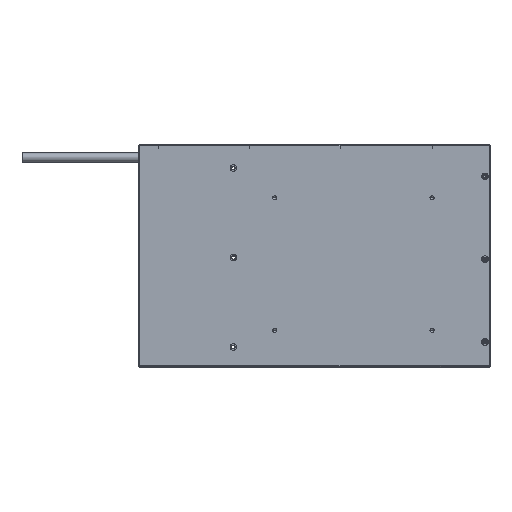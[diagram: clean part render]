
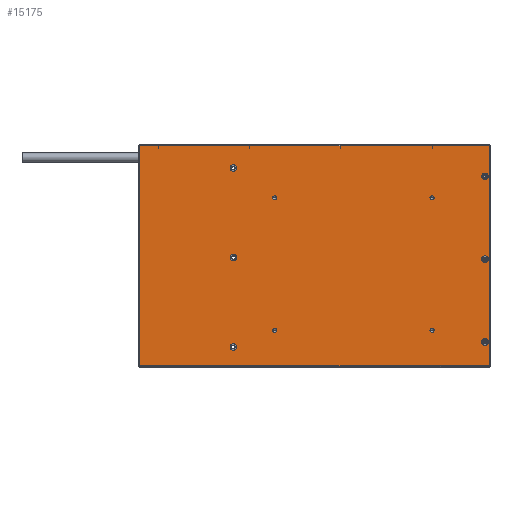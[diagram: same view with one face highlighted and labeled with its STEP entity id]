
A CAD part, top view. The second image highlights one B-rep face of the part: STEP entity #15175.
In plain terms, the highlighted planar face has unit normal (0, 0, 1).
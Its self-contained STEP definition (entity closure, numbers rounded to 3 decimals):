
#3896=CARTESIAN_POINT('',(102.,-50.,5.));
#3897=DIRECTION('',(0.,0.,1.));
#3898=DIRECTION('',(1.,0.,0.));
#3899=AXIS2_PLACEMENT_3D('',#3896,#3897,#3898);
#3901=CARTESIAN_POINT('',(102.,-50.,5.));
#3902=DIRECTION('',(0.,0.,1.));
#3903=DIRECTION('',(-1.,0.,0.));
#3904=AXIS2_PLACEMENT_3D('',#3901,#3902,#3903);
#3906=CARTESIAN_POINT('',(102.,0.,5.));
#3907=DIRECTION('',(0.,0.,1.));
#3908=DIRECTION('',(1.,0.,0.));
#3909=AXIS2_PLACEMENT_3D('',#3906,#3907,#3908);
#3911=CARTESIAN_POINT('',(102.,0.,5.));
#3912=DIRECTION('',(0.,0.,1.));
#3913=DIRECTION('',(-1.,0.,0.));
#3914=AXIS2_PLACEMENT_3D('',#3911,#3912,#3913);
#3916=CARTESIAN_POINT('',(102.,50.,5.));
#3917=DIRECTION('',(0.,0.,1.));
#3918=DIRECTION('',(1.,0.,0.));
#3919=AXIS2_PLACEMENT_3D('',#3916,#3917,#3918);
#3921=CARTESIAN_POINT('',(102.,50.,5.));
#3922=DIRECTION('',(0.,0.,1.));
#3923=DIRECTION('',(-1.,0.,0.));
#3924=AXIS2_PLACEMENT_3D('',#3921,#3922,#3923);
#3926=CARTESIAN_POINT('',(-50.,55.,5.));
#3927=DIRECTION('',(0.,0.,1.));
#3928=DIRECTION('',(1.,0.,0.));
#3929=AXIS2_PLACEMENT_3D('',#3926,#3927,#3928);
#3931=CARTESIAN_POINT('',(-50.,55.,5.));
#3932=DIRECTION('',(0.,0.,1.));
#3933=DIRECTION('',(-1.,0.,0.));
#3934=AXIS2_PLACEMENT_3D('',#3931,#3932,#3933);
#3936=CARTESIAN_POINT('',(-50.,1.,5.));
#3937=DIRECTION('',(0.,0.,1.));
#3938=DIRECTION('',(1.,0.,0.));
#3939=AXIS2_PLACEMENT_3D('',#3936,#3937,#3938);
#3941=CARTESIAN_POINT('',(-50.,1.,5.));
#3942=DIRECTION('',(0.,0.,1.));
#3943=DIRECTION('',(-1.,0.,0.));
#3944=AXIS2_PLACEMENT_3D('',#3941,#3942,#3943);
#3946=CARTESIAN_POINT('',(-50.,-53.,5.));
#3947=DIRECTION('',(0.,0.,1.));
#3948=DIRECTION('',(1.,0.,0.));
#3949=AXIS2_PLACEMENT_3D('',#3946,#3947,#3948);
#3951=CARTESIAN_POINT('',(-50.,-53.,5.));
#3952=DIRECTION('',(0.,0.,1.));
#3953=DIRECTION('',(-1.,0.,0.));
#3954=AXIS2_PLACEMENT_3D('',#3951,#3952,#3953);
#3956=CARTESIAN_POINT('',(70.,37.,5.));
#3957=DIRECTION('',(0.,0.,1.));
#3958=DIRECTION('',(-1.,0.,0.));
#3959=AXIS2_PLACEMENT_3D('',#3956,#3957,#3958);
#3961=CARTESIAN_POINT('',(70.,37.,5.));
#3962=DIRECTION('',(0.,0.,1.));
#3963=DIRECTION('',(1.,0.,0.));
#3964=AXIS2_PLACEMENT_3D('',#3961,#3962,#3963);
#3966=CARTESIAN_POINT('',(-25.,37.,5.));
#3967=DIRECTION('',(0.,0.,1.));
#3968=DIRECTION('',(-1.,0.,0.));
#3969=AXIS2_PLACEMENT_3D('',#3966,#3967,#3968);
#3971=CARTESIAN_POINT('',(-25.,37.,5.));
#3972=DIRECTION('',(0.,0.,1.));
#3973=DIRECTION('',(1.,0.,0.));
#3974=AXIS2_PLACEMENT_3D('',#3971,#3972,#3973);
#3976=CARTESIAN_POINT('',(70.,-43.,5.));
#3977=DIRECTION('',(0.,0.,1.));
#3978=DIRECTION('',(-1.,0.,0.));
#3979=AXIS2_PLACEMENT_3D('',#3976,#3977,#3978);
#3981=CARTESIAN_POINT('',(70.,-43.,5.));
#3982=DIRECTION('',(0.,0.,1.));
#3983=DIRECTION('',(1.,0.,0.));
#3984=AXIS2_PLACEMENT_3D('',#3981,#3982,#3983);
#3986=CARTESIAN_POINT('',(-25.,-43.,5.));
#3987=DIRECTION('',(0.,0.,1.));
#3988=DIRECTION('',(-1.,0.,0.));
#3989=AXIS2_PLACEMENT_3D('',#3986,#3987,#3988);
#3991=CARTESIAN_POINT('',(-25.,-43.,5.));
#3992=DIRECTION('',(0.,0.,1.));
#3993=DIRECTION('',(1.,0.,0.));
#3994=AXIS2_PLACEMENT_3D('',#3991,#3992,#3993);
#3996=DIRECTION('',(-1.,0.,0.));
#3997=VECTOR('',#3996,211.);
#3998=CARTESIAN_POINT('',(104.5,-64.5,5.));
#3999=LINE('',#3998,#3997);
#4000=DIRECTION('',(1.,0.,0.));
#4001=VECTOR('',#4000,211.);
#4002=CARTESIAN_POINT('',(-106.5,68.5,5.));
#4003=LINE('',#4002,#4001);
#6426=DIRECTION('',(0.,-1.,0.));
#6427=VECTOR('',#6426,133.);
#6428=CARTESIAN_POINT('',(-106.5,68.5,5.));
#6429=LINE('',#6428,#6427);
#7029=DIRECTION('',(0.,1.,0.));
#7030=VECTOR('',#7029,133.);
#7031=CARTESIAN_POINT('',(104.5,-64.5,5.));
#7032=LINE('',#7031,#7030);
#7633=CARTESIAN_POINT('',(104.,-50.,5.));
#7634=CARTESIAN_POINT('',(100.,-50.,5.));
#7635=VERTEX_POINT('',#7633);
#7636=VERTEX_POINT('',#7634);
#7637=CARTESIAN_POINT('',(104.,0.,5.));
#7638=CARTESIAN_POINT('',(100.,0.,5.));
#7639=VERTEX_POINT('',#7637);
#7640=VERTEX_POINT('',#7638);
#7641=CARTESIAN_POINT('',(104.,50.,5.));
#7642=CARTESIAN_POINT('',(100.,50.,5.));
#7643=VERTEX_POINT('',#7641);
#7644=VERTEX_POINT('',#7642);
#7645=CARTESIAN_POINT('',(-48.,55.,5.));
#7646=CARTESIAN_POINT('',(-52.,55.,5.));
#7647=VERTEX_POINT('',#7645);
#7648=VERTEX_POINT('',#7646);
#7649=CARTESIAN_POINT('',(-48.,1.,5.));
#7650=CARTESIAN_POINT('',(-52.,1.,5.));
#7651=VERTEX_POINT('',#7649);
#7652=VERTEX_POINT('',#7650);
#7653=CARTESIAN_POINT('',(-48.,-53.,5.));
#7654=CARTESIAN_POINT('',(-52.,-53.,5.));
#7655=VERTEX_POINT('',#7653);
#7656=VERTEX_POINT('',#7654);
#7657=CARTESIAN_POINT('',(68.75,37.,5.));
#7658=CARTESIAN_POINT('',(71.25,37.,5.));
#7659=VERTEX_POINT('',#7657);
#7660=VERTEX_POINT('',#7658);
#7661=CARTESIAN_POINT('',(-26.25,37.,5.));
#7662=CARTESIAN_POINT('',(-23.75,37.,5.));
#7663=VERTEX_POINT('',#7661);
#7664=VERTEX_POINT('',#7662);
#7665=CARTESIAN_POINT('',(68.75,-43.,5.));
#7666=CARTESIAN_POINT('',(71.25,-43.,5.));
#7667=VERTEX_POINT('',#7665);
#7668=VERTEX_POINT('',#7666);
#7669=CARTESIAN_POINT('',(-26.25,-43.,5.));
#7670=CARTESIAN_POINT('',(-23.75,-43.,5.));
#7671=VERTEX_POINT('',#7669);
#7672=VERTEX_POINT('',#7670);
#7788=CARTESIAN_POINT('',(104.5,-64.5,5.));
#7790=VERTEX_POINT('',#7788);
#8050=CARTESIAN_POINT('',(-106.5,68.5,5.));
#8051=VERTEX_POINT('',#8050);
#8450=CARTESIAN_POINT('',(104.5,68.5,5.));
#8451=VERTEX_POINT('',#8450);
#8818=CARTESIAN_POINT('',(-106.5,-64.5,5.));
#8819=VERTEX_POINT('',#8818);
#15103=CARTESIAN_POINT('',(0.,0.,5.));
#15104=DIRECTION('',(0.,0.,1.));
#15105=DIRECTION('',(1.,0.,0.));
#15106=AXIS2_PLACEMENT_3D('',#15103,#15104,#15105);
#15107=PLANE('',#15106);
#15109=ORIENTED_EDGE('',*,*,#15108,.T.);
#15111=ORIENTED_EDGE('',*,*,#15110,.F.);
#15112=ORIENTED_EDGE('',*,*,#12574,.T.);
#15114=ORIENTED_EDGE('',*,*,#15113,.F.);
#15115=EDGE_LOOP('',(#15109,#15111,#15112,#15114));
#15116=FACE_OUTER_BOUND('',#15115,.F.);
#15118=ORIENTED_EDGE('',*,*,#15117,.T.);
#15120=ORIENTED_EDGE('',*,*,#15119,.T.);
#15121=EDGE_LOOP('',(#15118,#15120));
#15122=FACE_BOUND('',#15121,.F.);
#15124=ORIENTED_EDGE('',*,*,#15123,.T.);
#15126=ORIENTED_EDGE('',*,*,#15125,.T.);
#15127=EDGE_LOOP('',(#15124,#15126));
#15128=FACE_BOUND('',#15127,.F.);
#15130=ORIENTED_EDGE('',*,*,#15129,.T.);
#15132=ORIENTED_EDGE('',*,*,#15131,.T.);
#15133=EDGE_LOOP('',(#15130,#15132));
#15134=FACE_BOUND('',#15133,.F.);
#15135=ORIENTED_EDGE('',*,*,#15082,.T.);
#15136=ORIENTED_EDGE('',*,*,#15098,.T.);
#15137=EDGE_LOOP('',(#15135,#15136));
#15138=FACE_BOUND('',#15137,.F.);
#15140=ORIENTED_EDGE('',*,*,#15139,.T.);
#15142=ORIENTED_EDGE('',*,*,#15141,.T.);
#15143=EDGE_LOOP('',(#15140,#15142));
#15144=FACE_BOUND('',#15143,.F.);
#15146=ORIENTED_EDGE('',*,*,#15145,.T.);
#15148=ORIENTED_EDGE('',*,*,#15147,.T.);
#15149=EDGE_LOOP('',(#15146,#15148));
#15150=FACE_BOUND('',#15149,.F.);
#15152=ORIENTED_EDGE('',*,*,#15151,.T.);
#15154=ORIENTED_EDGE('',*,*,#15153,.T.);
#15155=EDGE_LOOP('',(#15152,#15154));
#15156=FACE_BOUND('',#15155,.F.);
#15158=ORIENTED_EDGE('',*,*,#15157,.T.);
#15160=ORIENTED_EDGE('',*,*,#15159,.T.);
#15161=EDGE_LOOP('',(#15158,#15160));
#15162=FACE_BOUND('',#15161,.F.);
#15164=ORIENTED_EDGE('',*,*,#15163,.T.);
#15166=ORIENTED_EDGE('',*,*,#15165,.T.);
#15167=EDGE_LOOP('',(#15164,#15166));
#15168=FACE_BOUND('',#15167,.F.);
#15170=ORIENTED_EDGE('',*,*,#15169,.T.);
#15172=ORIENTED_EDGE('',*,*,#15171,.T.);
#15173=EDGE_LOOP('',(#15170,#15172));
#15174=FACE_BOUND('',#15173,.F.);
#3900=CIRCLE('',#3899,2.);
#3905=CIRCLE('',#3904,2.);
#3910=CIRCLE('',#3909,2.);
#3915=CIRCLE('',#3914,2.);
#3920=CIRCLE('',#3919,2.);
#3925=CIRCLE('',#3924,2.);
#3930=CIRCLE('',#3929,2.);
#3935=CIRCLE('',#3934,2.);
#3940=CIRCLE('',#3939,2.);
#3945=CIRCLE('',#3944,2.);
#3950=CIRCLE('',#3949,2.);
#3955=CIRCLE('',#3954,2.);
#3960=CIRCLE('',#3959,1.25);
#3965=CIRCLE('',#3964,1.25);
#3970=CIRCLE('',#3969,1.25);
#3975=CIRCLE('',#3974,1.25);
#3980=CIRCLE('',#3979,1.25);
#3985=CIRCLE('',#3984,1.25);
#3990=CIRCLE('',#3989,1.25);
#3995=CIRCLE('',#3994,1.25);
#12574=EDGE_CURVE('',#8051,#8451,#4003,.T.);
#15082=EDGE_CURVE('',#7651,#7652,#3940,.T.);
#15098=EDGE_CURVE('',#7652,#7651,#3945,.T.);
#15108=EDGE_CURVE('',#7790,#8819,#3999,.T.);
#15110=EDGE_CURVE('',#8051,#8819,#6429,.T.);
#15113=EDGE_CURVE('',#7790,#8451,#7032,.T.);
#15117=EDGE_CURVE('',#7639,#7640,#3910,.T.);
#15119=EDGE_CURVE('',#7640,#7639,#3915,.T.);
#15123=EDGE_CURVE('',#7643,#7644,#3920,.T.);
#15125=EDGE_CURVE('',#7644,#7643,#3925,.T.);
#15129=EDGE_CURVE('',#7647,#7648,#3930,.T.);
#15131=EDGE_CURVE('',#7648,#7647,#3935,.T.);
#15139=EDGE_CURVE('',#7655,#7656,#3950,.T.);
#15141=EDGE_CURVE('',#7656,#7655,#3955,.T.);
#15145=EDGE_CURVE('',#7659,#7660,#3960,.T.);
#15147=EDGE_CURVE('',#7660,#7659,#3965,.T.);
#15151=EDGE_CURVE('',#7663,#7664,#3970,.T.);
#15153=EDGE_CURVE('',#7664,#7663,#3975,.T.);
#15157=EDGE_CURVE('',#7667,#7668,#3980,.T.);
#15159=EDGE_CURVE('',#7668,#7667,#3985,.T.);
#15163=EDGE_CURVE('',#7671,#7672,#3990,.T.);
#15165=EDGE_CURVE('',#7672,#7671,#3995,.T.);
#15169=EDGE_CURVE('',#7635,#7636,#3900,.T.);
#15171=EDGE_CURVE('',#7636,#7635,#3905,.T.);
#15175=ADVANCED_FACE('',(#15116,#15122,#15128,#15134,#15138,#15144,#15150,
#15156,#15162,#15168,#15174),#15107,.T.);
